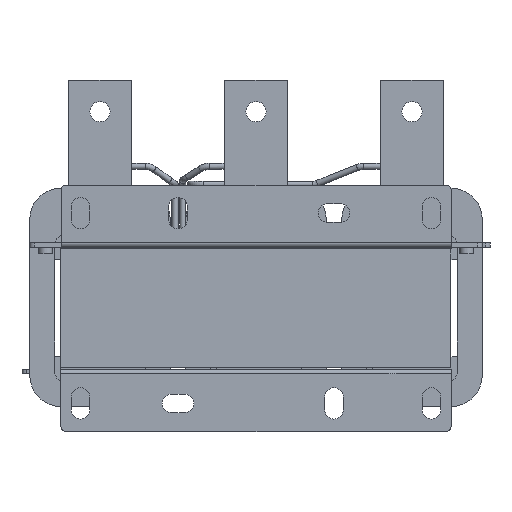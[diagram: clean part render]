
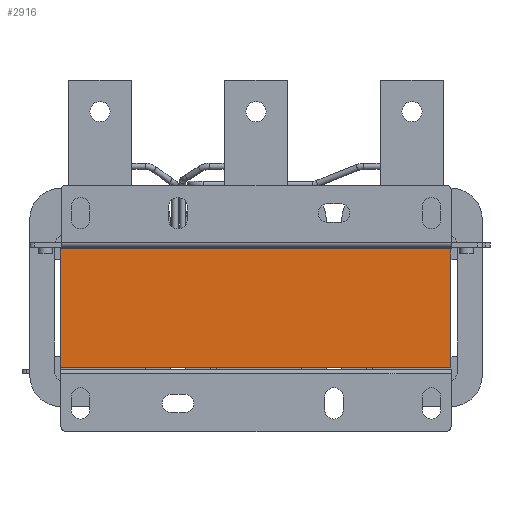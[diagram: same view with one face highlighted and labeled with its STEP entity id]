
A CAD part, front view. The second image highlights one B-rep face of the part: STEP entity #2916.
In plain terms, the highlighted planar face has unit normal (0, -1, 0).
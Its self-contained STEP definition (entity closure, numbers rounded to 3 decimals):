
#2916=ADVANCED_FACE('',(#8815),#8817,.F.);
#8815=FACE_BOUND('',#8816,.T.);
#8816=EDGE_LOOP('',(#16859,#16860,#16861,#16862));
#8817=PLANE('',#8818);
#8818=AXIS2_PLACEMENT_3D('',#8819,#8820,#8821);
#8819=CARTESIAN_POINT('',(-125.,-122.,76.));
#8820=DIRECTION('',(0.,1.,0.));
#8821=DIRECTION('',(-1.,0.,0.));
#16859=ORIENTED_EDGE('',*,*,#19872,.T.);
#16860=ORIENTED_EDGE('',*,*,#19884,.F.);
#16861=ORIENTED_EDGE('',*,*,#19862,.F.);
#16862=ORIENTED_EDGE('',*,*,#19886,.T.);
#19862=EDGE_CURVE('',#21400,#21395,#21402,.T.);
#19872=EDGE_CURVE('',#21422,#21419,#21423,.T.);
#19884=EDGE_CURVE('',#21395,#21419,#21444,.T.);
#19886=EDGE_CURVE('',#21400,#21422,#21446,.T.);
#21395=VERTEX_POINT('',#24014);
#21400=VERTEX_POINT('',#24023);
#21402=LINE('',#24027,#24028);
#21419=VERTEX_POINT('',#24062);
#21422=VERTEX_POINT('',#24067);
#21423=LINE('',#24068,#24069);
#21444=LINE('',#24113,#24114);
#21446=LINE('',#24119,#24120);
#24014=CARTESIAN_POINT('',(125.,-122.,76.));
#24023=CARTESIAN_POINT('',(-125.,-122.,76.));
#24027=CARTESIAN_POINT('',(-125.,-122.,76.));
#24028=VECTOR('',#24029,1.);
#24029=DIRECTION('',(1.,0.,0.));
#24062=CARTESIAN_POINT('',(125.,-122.,0.));
#24067=CARTESIAN_POINT('',(-125.,-122.,0.));
#24068=CARTESIAN_POINT('',(-125.,-122.,0.));
#24069=VECTOR('',#24070,1.);
#24070=DIRECTION('',(1.,0.,0.));
#24113=CARTESIAN_POINT('',(125.,-122.,76.));
#24114=VECTOR('',#24115,1.);
#24115=DIRECTION('',(0.,0.,-1.));
#24119=CARTESIAN_POINT('',(-125.,-122.,76.));
#24120=VECTOR('',#24121,1.);
#24121=DIRECTION('',(0.,0.,-1.));
